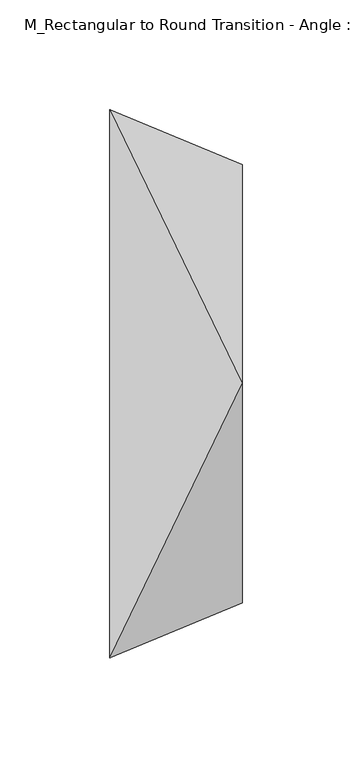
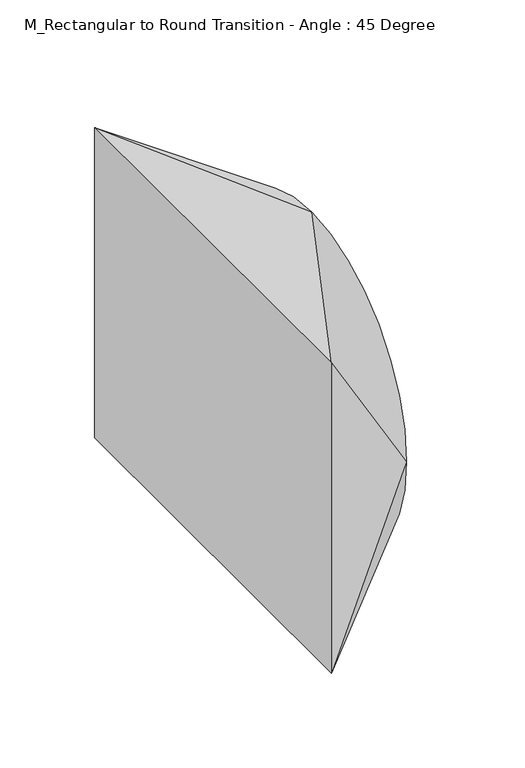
"""IFC4 building model written with IfcOpenShell, lengths in millimetres: duct fitting geometry, M_Rectangular to Round Transition - Angle : 45 Degree."""

from ifc_helpers import new_model, si_unit, frame, origin, place, context, project, spatial, circle_curve, source, transform, mapped, element, save
from ifc_brep_helpers import plane_surface, spline_surface, advanced_brep


def m_rectangular_to_round_transition_angle_45_degree_1b7ae117(model_context):
    return source(origin(), model_context, "Body", "AdvancedBrep", [
        advanced_brep(
        [(0.0, -125.0, -100.0), (0.0, -125.0, 100.0), (0.0, 125.0, 100.0), (0.0, 125.0, -100.0), (60.3553391, -100.0, 0.05), (60.3553391, 0.0, -99.95), (60.3553391, 100.0, 0.05), (60.3553391, 0.0, 100.05)],
        [
            (0, 1),
            (1, 2),
            (2, 3),
            (3, 0),
            (4, 5, circle_curve(frame((60.3553391, 0.0, 0.05), z_axis=(1.0, 0.0, 0.0), x_axis=(0.0, -1.0, 0.0)), 100.0)),
            (5, 6, circle_curve(frame((60.3553391, 0.0, 0.05), z_axis=(1.0, 0.0, 0.0), x_axis=(0.0, -1.0, 0.0)), 100.0)),
            (6, 7, circle_curve(frame((60.3553391, 0.0, 0.05), z_axis=(1.0, 0.0, 0.0), x_axis=(0.0, -1.0, 0.0)), 100.0)),
            (7, 4, circle_curve(frame((60.3553391, 0.0, 0.05), z_axis=(1.0, 0.0, 0.0), x_axis=(0.0, -1.0, 0.0)), 100.0)),
            (0, 4),
            (4, 1),
            (7, 1),
            (7, 2),
            (6, 2),
            (6, 3),
            (5, 3),
            (5, 0),
        ],
        [
            plane_surface(frame((0.0, 0.0, 0.0), z_axis=(-1.0, 0.0, 0.0), x_axis=(0.0, 1.0, 0.0))),
            plane_surface(frame((60.3553391, 0.0, 0.05), z_axis=(1.0, 0.0, 0.0), x_axis=(0.0, 1.0, 0.0))),
            plane_surface(frame((60.3553391, -100.0, 0.05), z_axis=(0.38268343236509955, -0.9238795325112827, 0.0), x_axis=(0.0, 0.0, 1.0))),
            spline_surface(2, 1, [[(60.3553391, -100.0, 0.05), (0.0, -125.0, 100.0)], [(60.3553391, -100.0, 100.05), (0.0, -125.0, 100.0)], [(60.3553391, 0.0, 100.05), (0.0, -125.0, 100.0)]], [3, 3], [2, 2], [0.0, 1.0], [0.0, 1.0], weights=[[1.0, 1.0], [0.7071067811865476, 0.7071067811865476], [1.0, 1.0]]),
            plane_surface(frame((60.3553391, 0.0, 100.05), z_axis=(-0.0008284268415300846, 0.0, 0.9999996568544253), x_axis=(0.0, 1.0, 0.0))),
            spline_surface(2, 1, [[(60.3553391, 0.0, 100.05), (0.0, 125.0, 100.0)], [(60.3553391, 100.0, 100.05), (0.0, 125.0, 100.0)], [(60.3553391, 100.0, 0.05), (0.0, 125.0, 100.0)]], [3, 3], [2, 2], [0.0, 1.0], [0.0, 1.0], weights=[[1.0, 1.0], [0.7071067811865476, 0.7071067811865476], [1.0, 1.0]]),
            plane_surface(frame((60.3553391, 100.0, 0.05), z_axis=(0.38268343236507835, 0.9238795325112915, 0.0), x_axis=(0.0, 0.0, -1.0))),
            spline_surface(2, 1, [[(60.3553391, 100.0, 0.05), (0.0, 125.0, -100.0)], [(60.3553391, 100.0, -99.95), (0.0, 125.0, -100.0)], [(60.3553391, 0.0, -99.95), (0.0, 125.0, -100.0)]], [3, 3], [2, 2], [0.0, 1.0], [0.0, 1.0], weights=[[1.0, 1.0], [0.7071067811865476, 0.7071067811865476], [1.0, 1.0]]),
            plane_surface(frame((60.3553391, 0.0, -99.95), z_axis=(0.000828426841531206, 0.0, -0.9999996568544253), x_axis=(0.0, -1.0, 0.0))),
            spline_surface(2, 1, [[(60.3553391, 0.0, -99.95), (0.0, -125.0, -100.0)], [(60.3553391, -100.0, -99.95), (0.0, -125.0, -100.0)], [(60.3553391, -100.0, 0.05), (0.0, -125.0, -100.0)]], [3, 3], [2, 2], [0.0, 1.0], [0.0, 1.0], weights=[[1.0, 1.0], [0.7071067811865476, 0.7071067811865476], [1.0, 1.0]]),
        ],
        [
            (0, [[1, 2, 3, 4]]),
            (1, [[5, 6, 7, 8]]),
            (2, [[-1, 9, 10]]),
            (3, [[-8, 11, -10]]),
            (4, [[-2, -11, 12]]),
            (5, [[-7, 13, -12]]),
            (6, [[-3, -13, 14]]),
            (7, [[-6, 15, -14]]),
            (8, [[-4, -15, 16]]),
            (9, [[-5, -9, -16]]),
        ],
    ),
        advanced_brep(
        [(0.0, -125.0, -100.0), (0.0, -125.0, 100.0), (0.0, 125.0, 100.0), (0.0, 125.0, -100.0), (60.3553391, -100.0, 0.05), (60.3553391, 0.0, -99.95), (60.3553391, 100.0, 0.05), (60.3553391, 0.0, 100.05)],
        [
            (0, 1),
            (1, 2),
            (2, 3),
            (3, 0),
            (4, 5, circle_curve(frame((60.3553391, 0.0, 0.05), z_axis=(1.0, 0.0, 0.0), x_axis=(0.0, -1.0, 0.0)), 100.0)),
            (5, 6, circle_curve(frame((60.3553391, 0.0, 0.05), z_axis=(1.0, 0.0, 0.0), x_axis=(0.0, -1.0, 0.0)), 100.0)),
            (6, 7, circle_curve(frame((60.3553391, 0.0, 0.05), z_axis=(1.0, 0.0, 0.0), x_axis=(0.0, -1.0, 0.0)), 100.0)),
            (7, 4, circle_curve(frame((60.3553391, 0.0, 0.05), z_axis=(1.0, 0.0, 0.0), x_axis=(0.0, -1.0, 0.0)), 100.0)),
            (0, 4),
            (4, 1),
            (7, 1),
            (7, 2),
            (6, 2),
            (6, 3),
            (5, 3),
            (5, 0),
        ],
        [
            plane_surface(frame((0.0, 0.0, 0.0), z_axis=(-1.0, 0.0, 0.0), x_axis=(0.0, 1.0, 0.0))),
            plane_surface(frame((60.3553391, 0.0, 0.05), z_axis=(1.0, 0.0, 0.0), x_axis=(0.0, 1.0, 0.0))),
            plane_surface(frame((60.3553391, -100.0, 0.05), z_axis=(0.3826834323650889, -0.9238795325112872, 0.0), x_axis=(0.0, 0.0, 1.0))),
            spline_surface(2, 1, [[(60.3553391, -100.0, 0.05), (0.0, -125.0, 100.0)], [(60.3553391, -100.0, 100.05), (0.0, -125.0, 100.0)], [(60.3553391, 0.0, 100.05), (0.0, -125.0, 100.0)]], [3, 3], [2, 2], [0.0, 1.0], [0.0, 1.0], weights=[[1.0, 1.0], [0.7071067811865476, 0.7071067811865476], [1.0, 1.0]]),
            plane_surface(frame((60.3553391, 0.0, 100.05), z_axis=(-0.0008284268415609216, 0.0, 0.9999996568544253), x_axis=(0.0, 1.0, 0.0))),
            spline_surface(2, 1, [[(60.3553391, 0.0, 100.05), (0.0, 125.0, 100.0)], [(60.3553391, 100.0, 100.05), (0.0, 125.0, 100.0)], [(60.3553391, 100.0, 0.05), (0.0, 125.0, 100.0)]], [3, 3], [2, 2], [0.0, 1.0], [0.0, 1.0], weights=[[1.0, 1.0], [0.7071067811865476, 0.7071067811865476], [1.0, 1.0]]),
            plane_surface(frame((60.3553391, 100.0, 0.05), z_axis=(0.3826834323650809, 0.9238795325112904, 0.0), x_axis=(0.0, 0.0, -1.0))),
            spline_surface(2, 1, [[(60.3553391, 100.0, 0.05), (0.0, 125.0, -100.0)], [(60.3553391, 100.0, -99.95), (0.0, 125.0, -100.0)], [(60.3553391, 0.0, -99.95), (0.0, 125.0, -100.0)]], [3, 3], [2, 2], [0.0, 1.0], [0.0, 1.0], weights=[[1.0, 1.0], [0.7071067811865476, 0.7071067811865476], [1.0, 1.0]]),
            plane_surface(frame((60.3553391, 0.0, -99.95), z_axis=(0.0008284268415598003, 0.0, -0.9999996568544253), x_axis=(0.0, -1.0, 0.0))),
            spline_surface(2, 1, [[(60.3553391, 0.0, -99.95), (0.0, -125.0, -100.0)], [(60.3553391, -100.0, -99.95), (0.0, -125.0, -100.0)], [(60.3553391, -100.0, 0.05), (0.0, -125.0, -100.0)]], [3, 3], [2, 2], [0.0, 1.0], [0.0, 1.0], weights=[[1.0, 1.0], [0.7071067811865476, 0.7071067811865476], [1.0, 1.0]]),
        ],
        [
            (0, [[1, 2, 3, 4]]),
            (1, [[5, 6, 7, 8]]),
            (2, [[-1, 9, 10]]),
            (3, [[-8, 11, -10]]),
            (4, [[-2, -11, 12]]),
            (5, [[-7, 13, -12]]),
            (6, [[-3, -13, 14]]),
            (7, [[-6, 15, -14]]),
            (8, [[-4, -15, 16]]),
            (9, [[-5, -9, -16]]),
        ],
    ),
        advanced_brep(
        [(60.3553391, 0.0, 100.05), (60.3553391, -100.0, 0.05), (60.3553391, 0.0, -99.95), (60.3553391, 100.0, 0.05), (0.0, -125.0, 100.0), (0.0, 125.0, 100.0), (0.0, 125.0, -100.0), (0.0, -125.0, -100.0)],
        [
            (0, 1, circle_curve(frame((60.3553391, 0.0, 0.05), z_axis=(1.0, 0.0, 0.0), x_axis=(0.0, 1.0, 0.0)), 100.0)),
            (1, 2, circle_curve(frame((60.3553391, 0.0, 0.05), z_axis=(1.0, 0.0, 0.0), x_axis=(0.0, 1.0, 0.0)), 100.0)),
            (2, 3, circle_curve(frame((60.3553391, 0.0, 0.05), z_axis=(1.0, 0.0, 0.0), x_axis=(0.0, 1.0, 0.0)), 100.0)),
            (3, 0, circle_curve(frame((60.3553391, 0.0, 0.05), z_axis=(1.0, 0.0, 0.0), x_axis=(0.0, 1.0, 0.0)), 100.0)),
            (4, 5),
            (5, 6),
            (6, 7),
            (7, 4),
            (0, 4),
            (4, 1),
            (7, 1),
            (7, 2),
            (6, 2),
            (6, 3),
            (5, 3),
            (5, 0),
        ],
        [
            plane_surface(frame((60.3553391, 0.0, 0.05), z_axis=(1.0, 0.0, 0.0), x_axis=(0.0, 0.0, -1.0))),
            plane_surface(frame((0.0, 0.0, 0.0), z_axis=(-1.0, 0.0, 0.0), x_axis=(0.0, 0.0, -1.0))),
            spline_surface(2, 1, [[(0.0, -125.0, 100.0), (60.3553391, 0.0, 100.05)], [(0.0, -125.0, 100.0), (60.3553391, -100.0, 100.05)], [(0.0, -125.0, 100.0), (60.3553391, -100.0, 0.05)]], [3, 3], [2, 2], [0.0, 1.0], [0.0, 1.0], weights=[[1.0, 1.0], [0.7071067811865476, 0.7071067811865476], [1.0, 1.0]]),
            plane_surface(frame((0.0, -125.0, 0.0), z_axis=(0.3826834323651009, -0.9238795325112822, 0.0), x_axis=(0.0, 0.0, -1.0))),
            spline_surface(2, 1, [[(0.0, -125.0, -100.0), (60.3553391, -100.0, 0.05)], [(0.0, -125.0, -100.0), (60.3553391, -100.0, -99.95)], [(0.0, -125.0, -100.0), (60.3553391, 0.0, -99.95)]], [3, 3], [2, 2], [0.0, 1.0], [0.0, 1.0], weights=[[1.0, 1.0], [0.7071067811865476, 0.7071067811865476], [1.0, 1.0]]),
            plane_surface(frame((0.0, 0.0, -100.0), z_axis=(0.000828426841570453, 0.0, -0.9999996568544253), x_axis=(0.0, 1.0, 0.0))),
            spline_surface(2, 1, [[(0.0, 125.0, -100.0), (60.3553391, 0.0, -99.95)], [(0.0, 125.0, -100.0), (60.3553391, 100.0, -99.95)], [(0.0, 125.0, -100.0), (60.3553391, 100.0, 0.05)]], [3, 3], [2, 2], [0.0, 1.0], [0.0, 1.0], weights=[[1.0, 1.0], [0.7071067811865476, 0.7071067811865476], [1.0, 1.0]]),
            plane_surface(frame((0.0, 125.0, 0.0), z_axis=(0.3826834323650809, 0.9238795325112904, 0.0), x_axis=(0.0, 0.0, 1.0))),
            spline_surface(2, 1, [[(0.0, 125.0, 100.0), (60.3553391, 100.0, 0.05)], [(0.0, 125.0, 100.0), (60.3553391, 100.0, 100.05)], [(0.0, 125.0, 100.0), (60.3553391, 0.0, 100.05)]], [3, 3], [2, 2], [0.0, 1.0], [0.0, 1.0], weights=[[1.0, 1.0], [0.7071067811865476, 0.7071067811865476], [1.0, 1.0]]),
            plane_surface(frame((0.0, 0.0, 100.0), z_axis=(-0.0008284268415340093, 0.0, 0.9999996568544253), x_axis=(0.0, -1.0, 0.0))),
        ],
        [
            (0, [[1, 2, 3, 4]]),
            (1, [[5, 6, 7, 8]]),
            (2, [[-1, 9, 10]]),
            (3, [[-8, 11, -10]]),
            (4, [[-2, -11, 12]]),
            (5, [[-7, 13, -12]]),
            (6, [[-3, -13, 14]]),
            (7, [[-6, 15, -14]]),
            (8, [[-4, -15, 16]]),
            (9, [[-5, -9, -16]]),
        ],
    ),
    ])


if __name__ == "__main__":
    model = new_model("IFC4")
    model_context = context("Model", 3, world=origin())
    ifc_project = project(units=[si_unit("LENGTHUNIT", "METRE", prefix="MILLI")], contexts=[model_context])
    site = spatial("IfcSite", under=ifc_project)
    building = spatial("IfcBuilding", under=site)
    placement = place(None, origin())
    m_rectangular_to_round_transition_angle_45_degree_shape = m_rectangular_to_round_transition_angle_45_degree_1b7ae117(model_context)
    element("IfcDuctFitting", 1, ObjectType="M_Rectangular to Round Transition - Angle : 45 Degree", at=placement, inside=building, context=model_context, shape_type="MappedRepresentation", body=[
        mapped(m_rectangular_to_round_transition_angle_45_degree_shape, transform((0.0, 0.0, 0.0), x_axis=(1.0, 0.0, 0.0), y_axis=(0.0, 1.0, 0.0), z_axis=(0.0, 0.0, 1.0))),
    ])
    save(model, "model.ifc")
